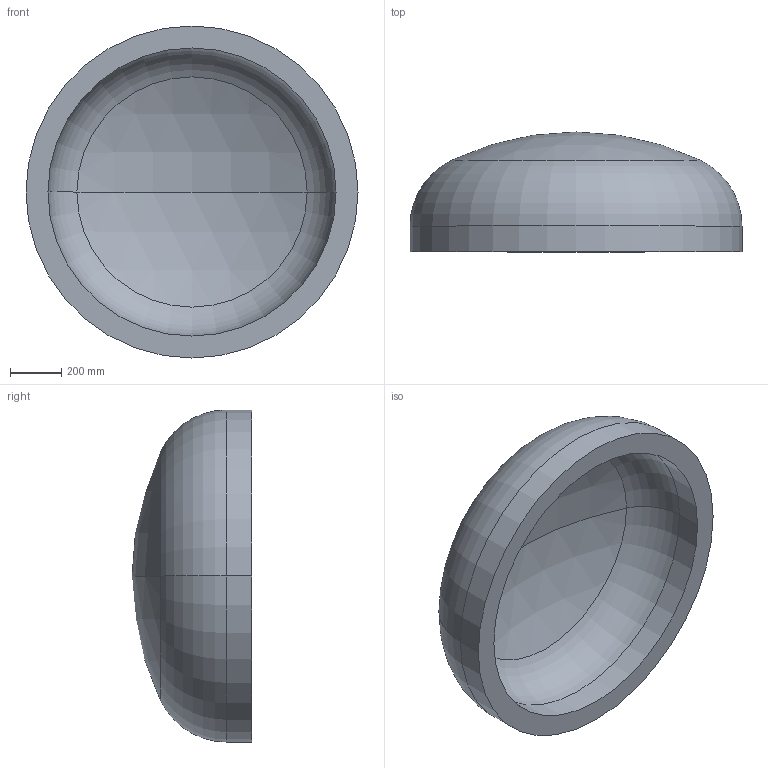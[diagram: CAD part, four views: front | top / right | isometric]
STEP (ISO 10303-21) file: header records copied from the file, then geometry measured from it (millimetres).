
FILE_DESCRIPTION (( 'STEP AP203' ), '1' );
FILE_NAME ('DIN 28013 Korbbogenform_-_Boden DIN 28013 - 1300 x 100 - I - s=86.step', '2016-07-01T09:59:54', ( '' ), ( '' ), 'SwSTEP 2.0', 'SolidWorks 2013', '' );
FILE_SCHEMA (( 'CONFIG_CONTROL_DESIGN' ));
Length unit declared in the file: millimetre
Products named in the file (1): DIN 28013 Korbbogenform_-_Boden DIN 28013 - 1300 x 100 - I - s=86
Bounding box: 1300 x 468.96 x 1300 mm (x, y, z)
Volume: 178139573.9 mm3; surface area: 4486264.9 mm2
Topology: 1 solids, 1 shells, 13 faces, 24 edges, 14 vertices
Faces by surface type: torus 4, cylinder 4, sphere 4, plane 1
Entity records: 407 total; most frequent: DIRECTION 72, CARTESIAN_POINT 52, ORIENTED_EDGE 48, AXIS2_PLACEMENT_3D 34, EDGE_CURVE 24, CIRCLE 20, VERTEX_POINT 14, EDGE_LOOP 14
